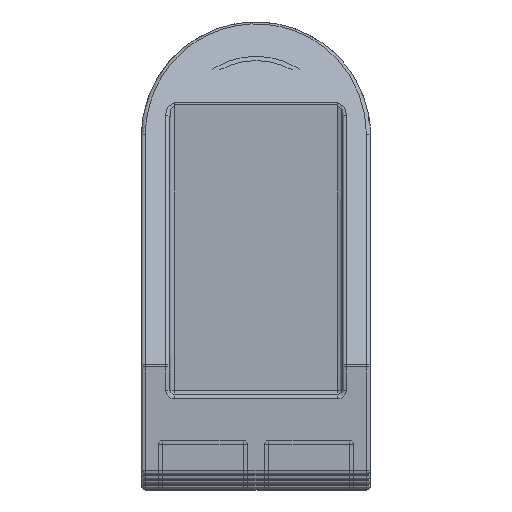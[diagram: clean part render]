
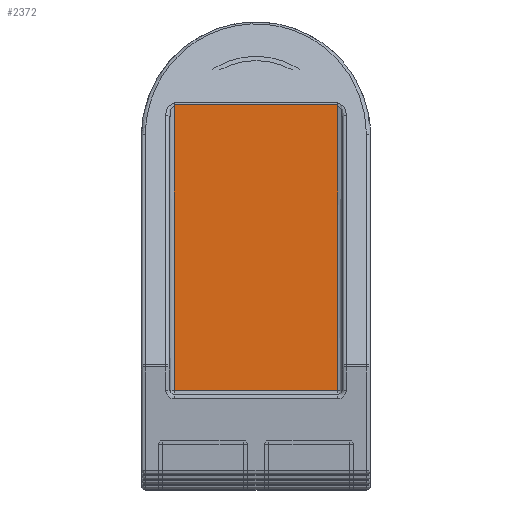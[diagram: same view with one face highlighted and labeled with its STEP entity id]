
A CAD part, top view. The second image highlights one B-rep face of the part: STEP entity #2372.
In plain terms, the highlighted planar face has unit normal (0, 0, 1) as drawn and (-1, 0, 0) by its records, which use the part's own axes.
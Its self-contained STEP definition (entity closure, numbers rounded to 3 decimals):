
#80 = ORIENTED_EDGE ( 'NONE', *, *, #5190, .T. ) ;
#219 = LINE ( 'NONE', #6156, #4385 ) ;
#586 = EDGE_CURVE ( 'NONE', #1113, #7647, #7408, .T. ) ;
#977 = PLANE ( 'NONE',  #6783 ) ;
#1106 = DIRECTION ( 'NONE',  ( 0., 1., 0. ) ) ;
#1113 = VERTEX_POINT ( 'NONE', #6296 ) ;
#1751 = CARTESIAN_POINT ( 'NONE',  ( 18.958, 35.111, 5. ) ) ;
#1954 = CARTESIAN_POINT ( 'NONE',  ( 18.958, 0., 34.25 ) ) ;
#1977 = DIRECTION ( 'NONE',  ( 0., 0., 1. ) ) ;
#2372 = ADVANCED_FACE ( 'NONE', ( #4742 ), #977, .T. ) ;
#2459 = VERTEX_POINT ( 'NONE', #2467 ) ;
#2467 = CARTESIAN_POINT ( 'NONE',  ( 18.958, 35.111, 5.75 ) ) ;
#2825 = ORIENTED_EDGE ( 'NONE', *, *, #9644, .T. ) ;
#3065 = DIRECTION ( 'NONE',  ( -1., 0., 0. ) ) ;
#3093 = DIRECTION ( 'NONE',  ( 0., -1., 0. ) ) ;
#3355 = LINE ( 'NONE', #1751, #5495 ) ;
#3464 = VECTOR ( 'NONE', #1977, 1000. ) ;
#4385 = VECTOR ( 'NONE', #3093, 1000. ) ;
#4401 = ORIENTED_EDGE ( 'NONE', *, *, #6825, .T. ) ;
#4503 = VERTEX_POINT ( 'NONE', #5038 ) ;
#4742 = FACE_OUTER_BOUND ( 'NONE', #8767, .T. ) ;
#5038 = CARTESIAN_POINT ( 'NONE',  ( 18.958, 35.111, 34.25 ) ) ;
#5190 = EDGE_CURVE ( 'NONE', #2459, #1113, #219, .T. ) ;
#5280 = DIRECTION ( 'NONE',  ( 0., 0., 1. ) ) ;
#5495 = VECTOR ( 'NONE', #8726, 1000. ) ;
#5773 = CARTESIAN_POINT ( 'NONE',  ( 18.958, -14.665, 34.25 ) ) ;
#6156 = CARTESIAN_POINT ( 'NONE',  ( 18.958, 0., 5.75 ) ) ;
#6296 = CARTESIAN_POINT ( 'NONE',  ( 18.958, -14.665, 5.75 ) ) ;
#6783 = AXIS2_PLACEMENT_3D ( 'NONE', #9187, #3065, #5280 ) ;
#6825 = EDGE_CURVE ( 'NONE', #7647, #4503, #8608, .T. ) ;
#7408 = LINE ( 'NONE', #8946, #3464 ) ;
#7621 = VECTOR ( 'NONE', #1106, 1000. ) ;
#7647 = VERTEX_POINT ( 'NONE', #5773 ) ;
#8020 = ORIENTED_EDGE ( 'NONE', *, *, #586, .T. ) ;
#8608 = LINE ( 'NONE', #1954, #7621 ) ;
#8726 = DIRECTION ( 'NONE',  ( 0., 0., -1. ) ) ;
#8767 = EDGE_LOOP ( 'NONE', ( #8020, #4401, #2825, #80 ) ) ;
#8946 = CARTESIAN_POINT ( 'NONE',  ( 18.958, -14.665, 0. ) ) ;
#9187 = CARTESIAN_POINT ( 'NONE',  ( 18.958, 0., 0. ) ) ;
#9644 = EDGE_CURVE ( 'NONE', #4503, #2459, #3355, .T. ) ;
